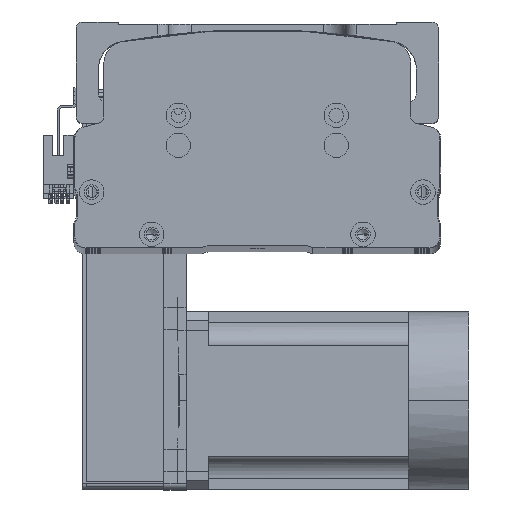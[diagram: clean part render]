
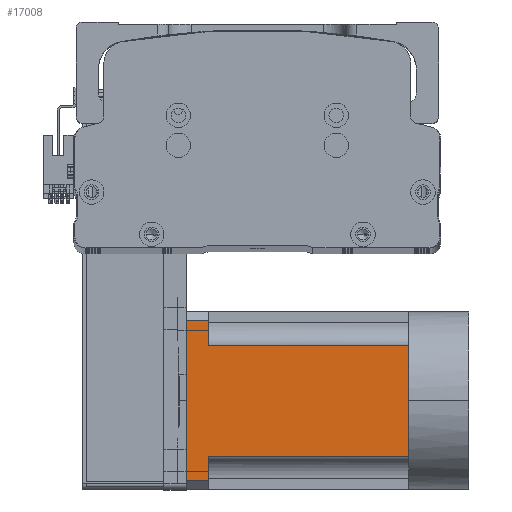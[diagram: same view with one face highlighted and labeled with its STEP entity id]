
A CAD part, top view. The second image highlights one B-rep face of the part: STEP entity #17008.
In plain terms, the highlighted planar face has unit normal (0, 0, 1) as drawn and (0, 0, -1) by its records, which use the part's own axes.
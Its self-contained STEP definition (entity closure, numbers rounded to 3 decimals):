
#645 = EDGE_CURVE ( 'NONE', #14613, #26720, #61027, .T. ) ;
#852 = LINE ( 'NONE', #15999, #27048 ) ;
#1137 = ORIENTED_EDGE ( 'NONE', *, *, #51202, .T. ) ;
#3021 = VECTOR ( 'NONE', #19881, 1000. ) ;
#4423 = CARTESIAN_POINT ( 'NONE',  ( 36., 100., -40. ) ) ;
#5957 = LINE ( 'NONE', #41571, #18212 ) ;
#6182 = VECTOR ( 'NONE', #55580, 1000. ) ;
#6307 = LINE ( 'NONE', #56584, #3021 ) ;
#6308 = ORIENTED_EDGE ( 'NONE', *, *, #37250, .T. ) ;
#6884 = VECTOR ( 'NONE', #29638, 1000. ) ;
#8028 = EDGE_LOOP ( 'NONE', ( #57485, #45404, #6308, #1137, #45872, #63165, #24036, #47301, #38086 ) ) ;
#9295 = LINE ( 'NONE', #31685, #37121 ) ;
#9486 = LINE ( 'NONE', #33997, #6182 ) ;
#10109 = CARTESIAN_POINT ( 'NONE',  ( -36., -27., -40. ) ) ;
#10457 = CARTESIAN_POINT ( 'NONE',  ( -40., 90., -40. ) ) ;
#10699 = CARTESIAN_POINT ( 'NONE',  ( -40., 90., -40. ) ) ;
#13034 = EDGE_CURVE ( 'NONE', #14007, #41700, #24800, .T. ) ;
#13793 = CARTESIAN_POINT ( 'NONE',  ( -40., -27., -40. ) ) ;
#14007 = VERTEX_POINT ( 'NONE', #42985 ) ;
#14613 = VERTEX_POINT ( 'NONE', #4423 ) ;
#15740 = DIRECTION ( 'NONE',  ( -1., 0., 0. ) ) ;
#15999 = CARTESIAN_POINT ( 'NONE',  ( -25., -27., -40. ) ) ;
#17008 = ADVANCED_FACE ( 'NONE', ( #66403 ), #39877, .T. ) ;
#17060 = CARTESIAN_POINT ( 'NONE',  ( -25., 0., -40. ) ) ;
#18212 = VECTOR ( 'NONE', #57390, 1000. ) ;
#18584 = VERTEX_POINT ( 'NONE', #42523 ) ;
#18838 = EDGE_CURVE ( 'NONE', #46535, #52610, #9486, .T. ) ;
#19881 = DIRECTION ( 'NONE',  ( 0., -1., 0. ) ) ;
#21236 = DIRECTION ( 'NONE',  ( 0., 1., 0. ) ) ;
#24036 = ORIENTED_EDGE ( 'NONE', *, *, #39812, .T. ) ;
#24294 = DIRECTION ( 'NONE',  ( -1., 0., 0. ) ) ;
#24800 = LINE ( 'NONE', #10109, #49438 ) ;
#25907 = EDGE_CURVE ( 'NONE', #14613, #41700, #9295, .T. ) ;
#26720 = VERTEX_POINT ( 'NONE', #28859 ) ;
#27048 = VECTOR ( 'NONE', #21236, 1000. ) ;
#28859 = CARTESIAN_POINT ( 'NONE',  ( 36., 90., -40. ) ) ;
#29003 = LINE ( 'NONE', #10699, #42955 ) ;
#29638 = DIRECTION ( 'NONE',  ( 0., -1., 0. ) ) ;
#31133 = DIRECTION ( 'NONE',  ( 0., 1., 0. ) ) ;
#31458 = DIRECTION ( 'NONE',  ( -1., 0., 0. ) ) ;
#31685 = CARTESIAN_POINT ( 'NONE',  ( -40., 100., -40. ) ) ;
#33997 = CARTESIAN_POINT ( 'NONE',  ( -40., 0., -40. ) ) ;
#34915 = LINE ( 'NONE', #10457, #36541 ) ;
#36541 = VECTOR ( 'NONE', #47096, 1000. ) ;
#37121 = VECTOR ( 'NONE', #31458, 1000. ) ;
#37250 = EDGE_CURVE ( 'NONE', #26720, #18584, #29003, .T. ) ;
#37939 = CARTESIAN_POINT ( 'NONE',  ( -36., 100., -40. ) ) ;
#38038 = CARTESIAN_POINT ( 'NONE',  ( 0., 0., -40. ) ) ;
#38086 = ORIENTED_EDGE ( 'NONE', *, *, #13034, .T. ) ;
#39812 = EDGE_CURVE ( 'NONE', #45477, #58582, #852, .T. ) ;
#39877 = PLANE ( 'NONE',  #45639 ) ;
#41571 = CARTESIAN_POINT ( 'NONE',  ( -40., 0., -40. ) ) ;
#41700 = VERTEX_POINT ( 'NONE', #37939 ) ;
#42523 = CARTESIAN_POINT ( 'NONE',  ( 25., 90., -40. ) ) ;
#42955 = VECTOR ( 'NONE', #15740, 1000. ) ;
#42985 = CARTESIAN_POINT ( 'NONE',  ( -36., 90., -40. ) ) ;
#45323 = EDGE_CURVE ( 'NONE', #58582, #14007, #34915, .T. ) ;
#45404 = ORIENTED_EDGE ( 'NONE', *, *, #645, .T. ) ;
#45477 = VERTEX_POINT ( 'NONE', #17060 ) ;
#45639 = AXIS2_PLACEMENT_3D ( 'NONE', #13793, #55742, #24294 ) ;
#45872 = ORIENTED_EDGE ( 'NONE', *, *, #18838, .T. ) ;
#46535 = VERTEX_POINT ( 'NONE', #63308 ) ;
#47096 = DIRECTION ( 'NONE',  ( -1., 0., 0. ) ) ;
#47301 = ORIENTED_EDGE ( 'NONE', *, *, #45323, .T. ) ;
#47558 = EDGE_CURVE ( 'NONE', #52610, #45477, #5957, .T. ) ;
#49438 = VECTOR ( 'NONE', #31133, 1000. ) ;
#51202 = EDGE_CURVE ( 'NONE', #18584, #46535, #6307, .T. ) ;
#51209 = CARTESIAN_POINT ( 'NONE',  ( -25., 90., -40. ) ) ;
#52610 = VERTEX_POINT ( 'NONE', #38038 ) ;
#55580 = DIRECTION ( 'NONE',  ( -1., 0., 0. ) ) ;
#55742 = DIRECTION ( 'NONE',  ( 0., 0., -1. ) ) ;
#56584 = CARTESIAN_POINT ( 'NONE',  ( 25., -27., -40. ) ) ;
#57390 = DIRECTION ( 'NONE',  ( -1., 0., 0. ) ) ;
#57485 = ORIENTED_EDGE ( 'NONE', *, *, #25907, .F. ) ;
#58582 = VERTEX_POINT ( 'NONE', #51209 ) ;
#61027 = LINE ( 'NONE', #61103, #6884 ) ;
#61103 = CARTESIAN_POINT ( 'NONE',  ( 36., -27., -40. ) ) ;
#63165 = ORIENTED_EDGE ( 'NONE', *, *, #47558, .T. ) ;
#63308 = CARTESIAN_POINT ( 'NONE',  ( 25., 0., -40. ) ) ;
#66403 = FACE_OUTER_BOUND ( 'NONE', #8028, .T. ) ;
